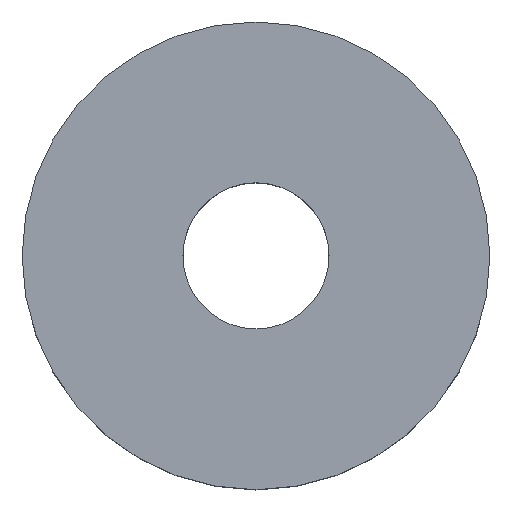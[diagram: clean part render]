
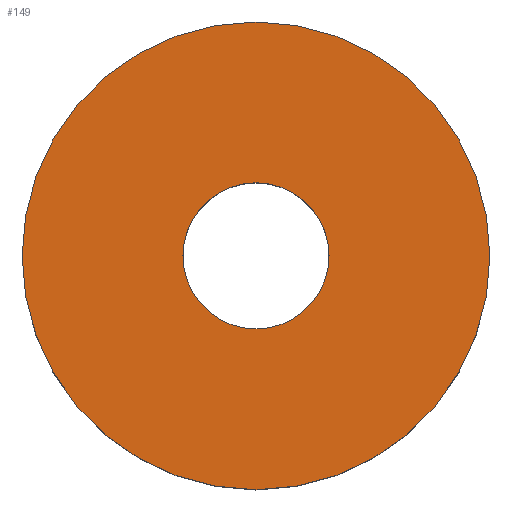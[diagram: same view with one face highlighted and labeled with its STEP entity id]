
A CAD part, top view. The second image highlights one B-rep face of the part: STEP entity #149.
In plain terms, the highlighted planar face has unit normal (0, 0, 1).
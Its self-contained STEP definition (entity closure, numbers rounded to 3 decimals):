
#1 = EDGE_CURVE ( 'NONE', #171, #146, #115, .T. ) ;
#11 = ORIENTED_EDGE ( 'NONE', *, *, #156, .F. ) ;
#19 = FACE_BOUND ( 'NONE', #185, .T. ) ;
#28 = ORIENTED_EDGE ( 'NONE', *, *, #1, .T. ) ;
#32 = DIRECTION ( 'NONE',  ( 1., 0., 0. ) ) ;
#34 = AXIS2_PLACEMENT_3D ( 'NONE', #152, #133, #177 ) ;
#36 = FACE_OUTER_BOUND ( 'NONE', #87, .T. ) ;
#67 = AXIS2_PLACEMENT_3D ( 'NONE', #192, #96, #131 ) ;
#70 = CARTESIAN_POINT ( 'NONE',  ( 0., 0., 5. ) ) ;
#74 = AXIS2_PLACEMENT_3D ( 'NONE', #70, #212, #32 ) ;
#75 = EDGE_CURVE ( 'NONE', #146, #171, #125, .T. ) ;
#87 = EDGE_LOOP ( 'NONE', ( #241, #28 ) ) ;
#90 = ORIENTED_EDGE ( 'NONE', *, *, #99, .F. ) ;
#95 = DIRECTION ( 'NONE',  ( 1., 0., 0. ) ) ;
#96 = DIRECTION ( 'NONE',  ( 0., 0., 1. ) ) ;
#99 = EDGE_CURVE ( 'NONE', #106, #150, #247, .T. ) ;
#106 = VERTEX_POINT ( 'NONE', #129 ) ;
#114 = DIRECTION ( 'NONE',  ( 1., 0., 0. ) ) ;
#115 = CIRCLE ( 'NONE', #181, 8. ) ;
#125 = CIRCLE ( 'NONE', #74, 8. ) ;
#129 = CARTESIAN_POINT ( 'NONE',  ( 2.5, 0., 5. ) ) ;
#131 = DIRECTION ( 'NONE',  ( 1., 0., 0. ) ) ;
#133 = DIRECTION ( 'NONE',  ( 0., 0., 1. ) ) ;
#146 = VERTEX_POINT ( 'NONE', #153 ) ;
#149 = ADVANCED_FACE ( 'NONE', ( #36, #19 ), #172, .T. ) ;
#150 = VERTEX_POINT ( 'NONE', #229 ) ;
#151 = DIRECTION ( 'NONE',  ( 0., 0., 1. ) ) ;
#152 = CARTESIAN_POINT ( 'NONE',  ( 0., 0., 5. ) ) ;
#153 = CARTESIAN_POINT ( 'NONE',  ( -8., 0., 5. ) ) ;
#156 = EDGE_CURVE ( 'NONE', #150, #106, #235, .T. ) ;
#171 = VERTEX_POINT ( 'NONE', #228 ) ;
#172 = PLANE ( 'NONE',  #205 ) ;
#177 = DIRECTION ( 'NONE',  ( 1., 0., 0. ) ) ;
#181 = AXIS2_PLACEMENT_3D ( 'NONE', #219, #242, #95 ) ;
#185 = EDGE_LOOP ( 'NONE', ( #11, #90 ) ) ;
#192 = CARTESIAN_POINT ( 'NONE',  ( 0., 0., 5. ) ) ;
#205 = AXIS2_PLACEMENT_3D ( 'NONE', #244, #151, #114 ) ;
#212 = DIRECTION ( 'NONE',  ( 0., 0., 1. ) ) ;
#219 = CARTESIAN_POINT ( 'NONE',  ( 0., 0., 5. ) ) ;
#228 = CARTESIAN_POINT ( 'NONE',  ( 8., 0., 5. ) ) ;
#229 = CARTESIAN_POINT ( 'NONE',  ( -2.5, 0., 5. ) ) ;
#235 = CIRCLE ( 'NONE', #67, 2.5 ) ;
#241 = ORIENTED_EDGE ( 'NONE', *, *, #75, .T. ) ;
#242 = DIRECTION ( 'NONE',  ( 0., 0., 1. ) ) ;
#244 = CARTESIAN_POINT ( 'NONE',  ( 0., 0., 5. ) ) ;
#247 = CIRCLE ( 'NONE', #34, 2.5 ) ;
